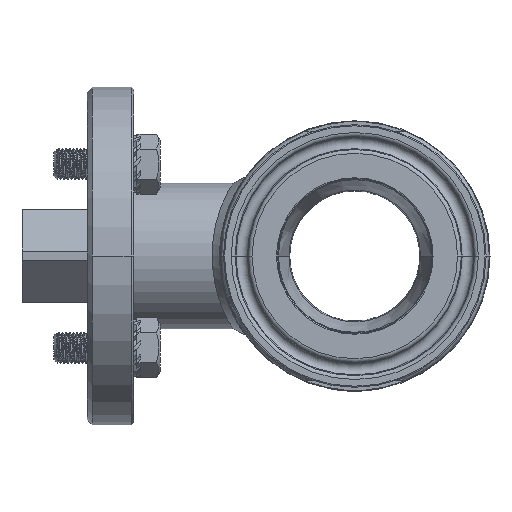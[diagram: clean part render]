
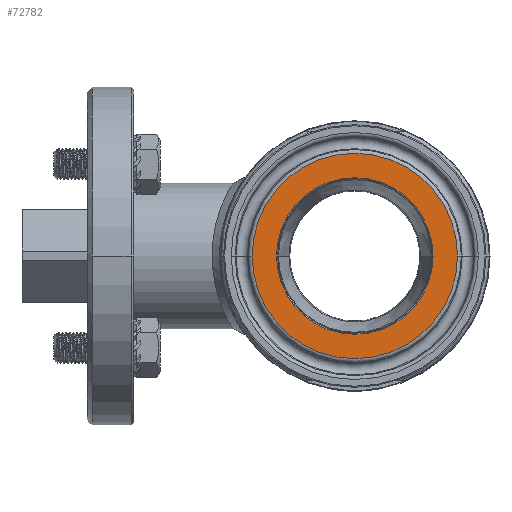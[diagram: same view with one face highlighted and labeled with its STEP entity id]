
A CAD part, left-side view. The second image highlights one B-rep face of the part: STEP entity #72782.
In plain terms, the highlighted planar face has unit normal (-1, 0, 0).
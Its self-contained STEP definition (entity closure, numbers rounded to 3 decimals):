
#72006=CARTESIAN_POINT('',(-53.,0.,0.));
#72007=DIRECTION('',(-1.,0.,0.));
#72008=DIRECTION('',(0.,1.,0.));
#72009=AXIS2_PLACEMENT_3D('',#72006,#72007,#72008);
#72011=CARTESIAN_POINT('',(-53.,0.,0.));
#72012=DIRECTION('',(-1.,0.,0.));
#72013=DIRECTION('',(0.,-1.,0.));
#72014=AXIS2_PLACEMENT_3D('',#72011,#72012,#72013);
#72016=CARTESIAN_POINT('',(-53.,0.,0.));
#72017=DIRECTION('',(1.,0.,0.));
#72018=DIRECTION('',(0.,1.,0.));
#72019=AXIS2_PLACEMENT_3D('',#72016,#72017,#72018);
#72021=CARTESIAN_POINT('',(-53.,0.,0.));
#72022=DIRECTION('',(1.,0.,0.));
#72023=DIRECTION('',(0.,-1.,0.));
#72024=AXIS2_PLACEMENT_3D('',#72021,#72022,#72023);
#72491=CARTESIAN_POINT('',(-53.,19.747,0.));
#72492=CARTESIAN_POINT('',(-53.,-19.747,0.));
#72493=VERTEX_POINT('',#72491);
#72494=VERTEX_POINT('',#72492);
#72531=CARTESIAN_POINT('',(-53.,15.05,0.));
#72532=CARTESIAN_POINT('',(-53.,-15.05,0.));
#72533=VERTEX_POINT('',#72531);
#72534=VERTEX_POINT('',#72532);
#72765=CARTESIAN_POINT('',(-53.,0.,0.));
#72766=DIRECTION('',(-1.,0.,0.));
#72767=DIRECTION('',(0.,1.,0.));
#72768=AXIS2_PLACEMENT_3D('',#72765,#72766,#72767);
#72769=PLANE('',#72768);
#72771=ORIENTED_EDGE('',*,*,#72770,.F.);
#72773=ORIENTED_EDGE('',*,*,#72772,.F.);
#72774=EDGE_LOOP('',(#72771,#72773));
#72775=FACE_OUTER_BOUND('',#72774,.F.);
#72777=ORIENTED_EDGE('',*,*,#72776,.F.);
#72779=ORIENTED_EDGE('',*,*,#72778,.F.);
#72780=EDGE_LOOP('',(#72777,#72779));
#72781=FACE_BOUND('',#72780,.F.);
#72782=ADVANCED_FACE('',(#72775,#72781),#72769,.T.);
#72010=CIRCLE('',#72009,19.747);
#72015=CIRCLE('',#72014,19.747);
#72020=CIRCLE('',#72019,15.05);
#72025=CIRCLE('',#72024,15.05);
#72770=EDGE_CURVE('',#72493,#72494,#72010,.T.);
#72772=EDGE_CURVE('',#72494,#72493,#72015,.T.);
#72776=EDGE_CURVE('',#72533,#72534,#72020,.T.);
#72778=EDGE_CURVE('',#72534,#72533,#72025,.T.);
